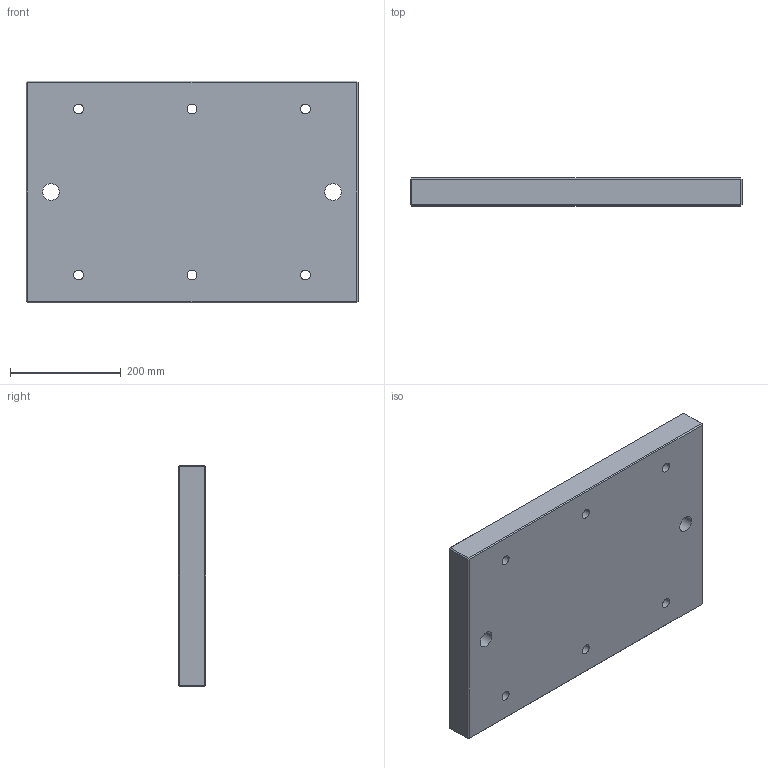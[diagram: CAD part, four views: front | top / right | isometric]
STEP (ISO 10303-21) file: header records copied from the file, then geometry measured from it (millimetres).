
FILE_DESCRIPTION((''),'2;1');
FILE_NAME('FG_WH_BASPL_RCPLNNP001','2026-05-17T09:32:35',('Admin'),(''),'CREO PARAMETRIC BY PTC INC, 2025010','CREO PARAMETRIC BY PTC INC, 2025010','');
FILE_SCHEMA(('CONFIG_CONTROL_DESIGN'));
Length unit declared in the file: millimetre
Products named in the file (1): FG_WH_BASPL_RCPLNNP001
Bounding box: 600 x 50 x 400 mm (x, y, z)
Volume: 11815581.6 mm3; surface area: 598210.6 mm2
Topology: 1 solids, 1 shells, 60 faces, 140 edges, 88 vertices
Faces by surface type: plane 32, cylinder 28
Entity records: 1782 total; most frequent: DIRECTION 316, CARTESIAN_POINT 288, ORIENTED_EDGE 280, EDGE_CURVE 140, AXIS2_PLACEMENT_3D 116, VERTEX_POINT 88, VECTOR 84, LINE 84
